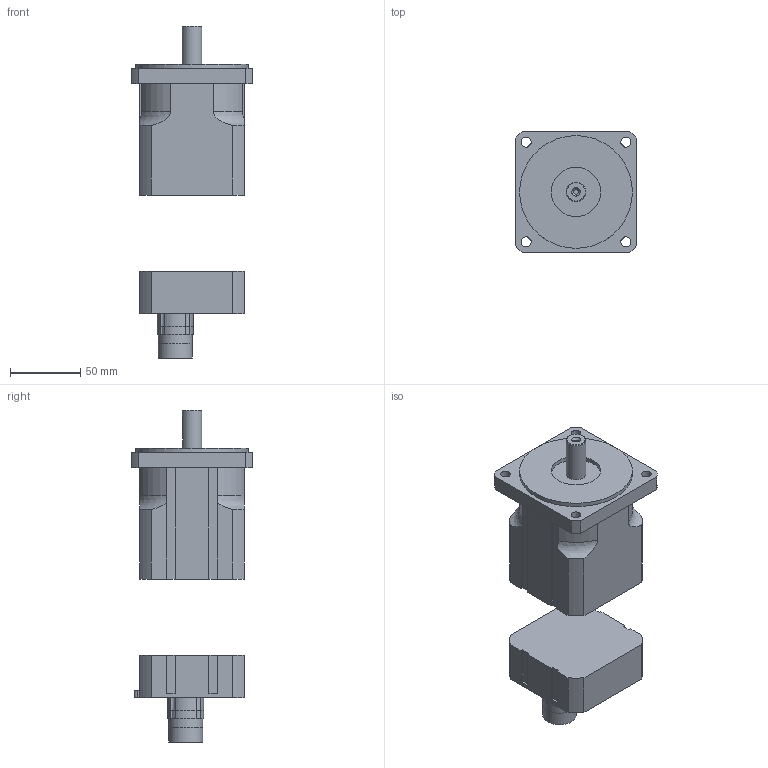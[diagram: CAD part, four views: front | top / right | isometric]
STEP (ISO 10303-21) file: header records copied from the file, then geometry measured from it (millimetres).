
FILE_DESCRIPTION(/* description */ ('Alibre Inc.'),/* implementation_level */ '2;1');
FILE_NAME(/* name */ 'export0',/* time_stamp */ '2011-01-14T11:47:48+01:00',/* author */ (''),/* organization */ (''),/* preprocessor_version */ 'ST-DEVELOPER v12',/* originating_system */ 'Alibre',/* authorisation */ '');
FILE_SCHEMA (('ALIBRE_SCHEMA','CONFIG_CONTROL_DESIGN'));
Length unit declared in the file: millimetre
Products named in the file (6): ID_1
Bounding box: 86 x 86 x 235.5 mm (x, y, z)
Volume: 668055.9 mm3; surface area: 74639.5 mm2
Topology: 5 solids, 5 shells, 170 faces, 439 edges, 287 vertices
Faces by surface type: plane 81, cylinder 59, bspline 25, torus 4, cone 1
Full cylindrical faces by diameter (mm): 2.7 x8, 14 x1, 20 x2, 24 x2, 35 x1, 80 x1
Entity records: 15602 total; most frequent: CARTESIAN_POINT 3709, DIRECTION 1775, ORIENTED_EDGE 1712, EDGE_CURVE 856, AXIS2_PLACEMENT_3D 690, VERTEX_POINT 592, VECTOR 555, EDGE_LOOP 510
